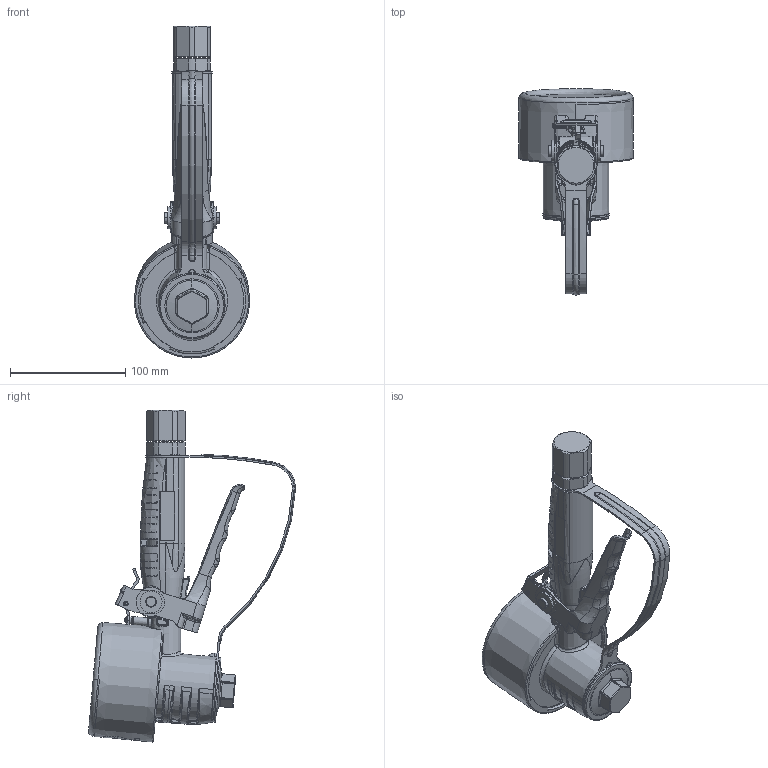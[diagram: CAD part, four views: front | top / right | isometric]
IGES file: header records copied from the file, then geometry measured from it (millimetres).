
Start section:  PTC IGES file: 24u947-en-e.igs
Global section: file name: 24u947-en-e.igs; native system: Creo Parametric by PTC Inc.; preprocessor: 2019030; author: qusrh3; organization: Unknown; date: 20191231.175853; units: inch
Bounding box: 99.85 x 179.64 x 288.27 mm (x, y, z)
Surface area: 143447.5 mm2 (no closed solid volume)
Topology: 0 solids, 0 shells, 1263 faces, 6130 edges, 6128 vertices
Faces by surface type: bspline 701, revolution 560, extrusion 2
